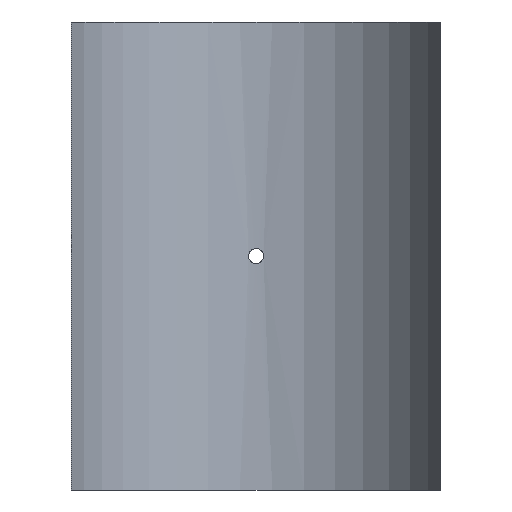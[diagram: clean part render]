
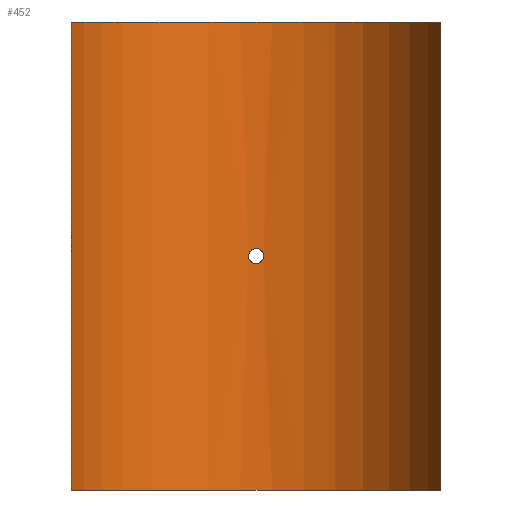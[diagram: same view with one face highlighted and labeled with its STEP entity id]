
A CAD part, front view. The second image highlights one B-rep face of the part: STEP entity #452.
In plain terms, the highlighted cylindrical face has radius 125 mm (diameter 250 mm), a partial arc.
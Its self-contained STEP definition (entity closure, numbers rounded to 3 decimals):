
#19=B_SPLINE_CURVE_WITH_KNOTS('',3,(#788,#789,#790,#791,#792,#793,#794,
#795,#796,#797,#798,#799,#800,#801,#802,#803,#804,#805,#806,#807,#808,#809,
#810,#811,#812,#813,#814,#815,#816,#817,#818,#819,#820,#821),
 .UNSPECIFIED.,.T.,.F.,(4,2,2,2,2,2,2,2,2,2,2,2,2,2,2,2,4),(0.,0.181,
0.362,0.542,0.723,0.904,
1.085,1.266,1.447,1.627,1.808,
1.989,2.17,2.351,2.532,2.712,
2.893),.UNSPECIFIED.);
#43=LINE('',#1065,#62);
#44=LINE('',#1068,#63);
#62=VECTOR('',#661,10.);
#63=VECTOR('',#664,10.);
#76=CYLINDRICAL_SURFACE('',#530,125.);
#88=FACE_BOUND('',#167,.T.);
#127=FACE_OUTER_BOUND('',#166,.T.);
#166=EDGE_LOOP('',(#405,#406,#407,#408));
#167=EDGE_LOOP('',(#409));
#201=CIRCLE('',#529,125.);
#202=CIRCLE('',#531,125.);
#219=VERTEX_POINT('',#786);
#242=VERTEX_POINT('',#1058);
#243=VERTEX_POINT('',#1060);
#244=VERTEX_POINT('',#1064);
#245=VERTEX_POINT('',#1066);
#267=EDGE_CURVE('',#219,#219,#19,.T.);
#299=EDGE_CURVE('',#242,#243,#201,.T.);
#301=EDGE_CURVE('',#244,#242,#43,.T.);
#302=EDGE_CURVE('',#245,#244,#202,.T.);
#303=EDGE_CURVE('',#245,#243,#44,.T.);
#405=ORIENTED_EDGE('',*,*,#301,.F.);
#406=ORIENTED_EDGE('',*,*,#302,.F.);
#407=ORIENTED_EDGE('',*,*,#303,.T.);
#408=ORIENTED_EDGE('',*,*,#299,.F.);
#409=ORIENTED_EDGE('',*,*,#267,.T.);
#452=ADVANCED_FACE('',(#127,#88),#76,.F.);
#529=AXIS2_PLACEMENT_3D('',#1061,#656,#657);
#530=AXIS2_PLACEMENT_3D('',#1063,#659,#660);
#531=AXIS2_PLACEMENT_3D('',#1067,#662,#663);
#656=DIRECTION('center_axis',(0.,0.,1.));
#657=DIRECTION('ref_axis',(0.948,0.318,0.));
#659=DIRECTION('center_axis',(0.,0.,1.));
#660=DIRECTION('ref_axis',(0.948,0.318,0.));
#661=DIRECTION('',(0.,0.,-1.));
#662=DIRECTION('center_axis',(0.,0.,-1.));
#663=DIRECTION('ref_axis',(0.948,0.318,0.));
#664=DIRECTION('',(0.,0.,-1.));
#786=CARTESIAN_POINT('',(4.8,124.908,0.));
#788=CARTESIAN_POINT('Ctrl Pts',(4.8,124.908,0.));
#789=CARTESIAN_POINT('Ctrl Pts',(4.8,124.908,-0.603));
#790=CARTESIAN_POINT('Ctrl Pts',(4.68,124.913,-1.246));
#791=CARTESIAN_POINT('Ctrl Pts',(4.19,124.93,-2.428));
#792=CARTESIAN_POINT('Ctrl Pts',(3.82,124.942,-2.968));
#793=CARTESIAN_POINT('Ctrl Pts',(2.968,124.965,-3.82));
#794=CARTESIAN_POINT('Ctrl Pts',(2.428,124.978,-4.19));
#795=CARTESIAN_POINT('Ctrl Pts',(1.246,124.995,-4.68));
#796=CARTESIAN_POINT('Ctrl Pts',(0.603,125.,-4.8));
#797=CARTESIAN_POINT('Ctrl Pts',(-0.603,125.,-4.8));
#798=CARTESIAN_POINT('Ctrl Pts',(-1.246,124.995,-4.68));
#799=CARTESIAN_POINT('Ctrl Pts',(-2.428,124.978,-4.19));
#800=CARTESIAN_POINT('Ctrl Pts',(-2.968,124.965,-3.82));
#801=CARTESIAN_POINT('Ctrl Pts',(-3.82,124.942,-2.968));
#802=CARTESIAN_POINT('Ctrl Pts',(-4.19,124.93,-2.428));
#803=CARTESIAN_POINT('Ctrl Pts',(-4.68,124.913,-1.246));
#804=CARTESIAN_POINT('Ctrl Pts',(-4.8,124.908,-0.603));
#805=CARTESIAN_POINT('Ctrl Pts',(-4.8,124.908,0.603));
#806=CARTESIAN_POINT('Ctrl Pts',(-4.68,124.913,1.246));
#807=CARTESIAN_POINT('Ctrl Pts',(-4.19,124.93,2.428));
#808=CARTESIAN_POINT('Ctrl Pts',(-3.82,124.942,2.968));
#809=CARTESIAN_POINT('Ctrl Pts',(-2.968,124.965,3.82));
#810=CARTESIAN_POINT('Ctrl Pts',(-2.428,124.978,4.19));
#811=CARTESIAN_POINT('Ctrl Pts',(-1.246,124.995,4.68));
#812=CARTESIAN_POINT('Ctrl Pts',(-0.603,125.,4.8));
#813=CARTESIAN_POINT('Ctrl Pts',(0.603,125.,4.8));
#814=CARTESIAN_POINT('Ctrl Pts',(1.246,124.995,4.68));
#815=CARTESIAN_POINT('Ctrl Pts',(2.428,124.978,4.19));
#816=CARTESIAN_POINT('Ctrl Pts',(2.968,124.965,3.82));
#817=CARTESIAN_POINT('Ctrl Pts',(3.82,124.942,2.968));
#818=CARTESIAN_POINT('Ctrl Pts',(4.19,124.93,2.428));
#819=CARTESIAN_POINT('Ctrl Pts',(4.68,124.913,1.246));
#820=CARTESIAN_POINT('Ctrl Pts',(4.8,124.908,0.603));
#821=CARTESIAN_POINT('Ctrl Pts',(4.8,124.908,0.));
#1058=CARTESIAN_POINT('',(118.5,39.784,-150.));
#1060=CARTESIAN_POINT('',(-118.5,39.784,-150.));
#1061=CARTESIAN_POINT('Origin',(0.,0.,
-150.));
#1063=CARTESIAN_POINT('Origin',(0.,0.,
0.));
#1064=CARTESIAN_POINT('',(118.5,39.784,150.));
#1065=CARTESIAN_POINT('',(118.5,39.784,0.));
#1066=CARTESIAN_POINT('',(-118.5,39.784,150.));
#1067=CARTESIAN_POINT('Origin',(0.,0.,
150.));
#1068=CARTESIAN_POINT('',(-118.5,39.784,0.));
